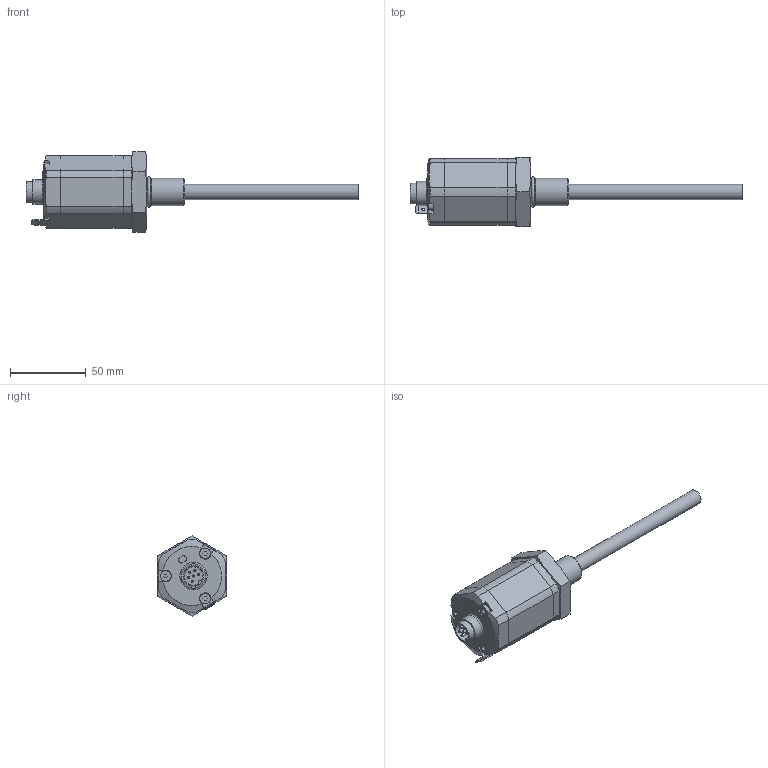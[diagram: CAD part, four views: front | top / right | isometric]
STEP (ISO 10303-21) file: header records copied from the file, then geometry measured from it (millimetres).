
FILE_DESCRIPTION( ( 'STEP AP203' ), '1' );
FILE_NAME( 'p:/temp/worker_29/temp/exporttempdir_4740_371_1Kb2i/format_0/RH5 M A 0025M 01 D60 1 A 1 0 0_(M_A_M_S_25_1_D60_A_1_Standard_____A0).stp', '2021-08-26T12:02:29', ( 'License CC BY-ND 4.0' ), ( 'CADENAS' ), ' ', 'PARTsolutions', ' ' );
FILE_SCHEMA( ( 'CONFIG_CONTROL_DESIGN' ) );
Length unit declared in the file: millimetre
Products named in the file (3): RH5 M A 0025M  01 D60 1 A 1 0 0_(M_A_M_S_25_1_D60_A_1_Standard_____A0); _RH5 Analog_(M_D60)_EIP; _RHV STAB5_(A_25_M)_STAB
Assembly tree (2 placements, depth 2):
  RH5 M A 0025M  01 D60 1 A 1 0 0_(M_A_M_S_25_1_D60_A_1_Standard_____A0)
    _RH5 Analog_(M_D60)_EIP
    _RHV STAB5_(A_25_M)_STAB
Bounding box: 219.2 x 46 x 53.12 mm (x, y, z)
Volume: 130220.9 mm3; surface area: 22384 mm2
Topology: 2 solids, 2 shells, 184 faces, 446 edges, 286 vertices
Faces by surface type: plane 106, cylinder 49, cone 18, bspline 6, torus 5
Full cylindrical faces by diameter (mm): 1.475 x6, 1.7 x1, 7 x3, 10 x1, 10.2 x1, 13.8 x1, 16 x1, 16.16 x2, 18 x1
Entity records: 5505 total; most frequent: CARTESIAN_POINT 1229, DIRECTION 867, ORIENTED_EDGE 818, EDGE_CURVE 409, AXIS2_PLACEMENT_3D 318, VERTEX_POINT 280, EDGE_LOOP 236, LINE 231
